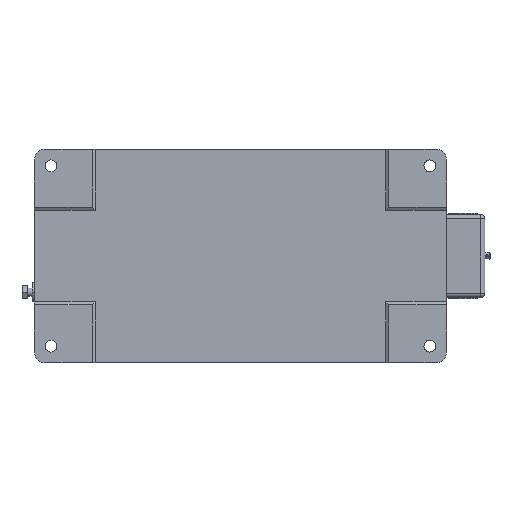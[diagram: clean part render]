
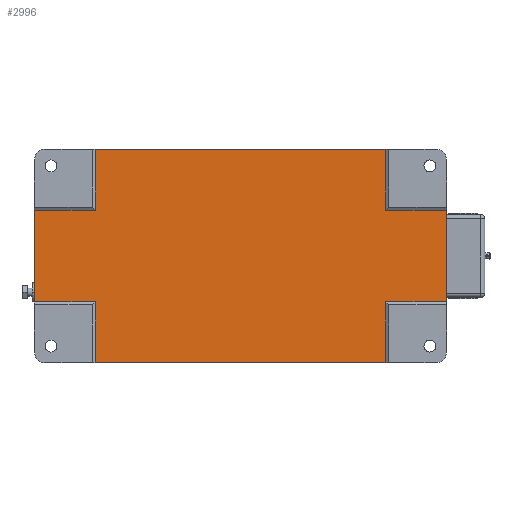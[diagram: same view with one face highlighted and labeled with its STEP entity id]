
A CAD part, front view. The second image highlights one B-rep face of the part: STEP entity #2996.
In plain terms, the highlighted planar face has unit normal (0, -1, 0).
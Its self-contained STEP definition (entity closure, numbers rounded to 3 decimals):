
#44 = ORIENTED_EDGE ( 'NONE', *, *, #7060, .T. ) ;
#123 = EDGE_LOOP ( 'NONE', ( #1683, #4411, #127, #2958, #8698, #1298, #7544, #4750, #6911, #6355, #44, #3454 ) ) ;
#127 = ORIENTED_EDGE ( 'NONE', *, *, #384, .T. ) ;
#230 = CARTESIAN_POINT ( 'NONE',  ( 91.144, 2., 44.144 ) ) ;
#379 = DIRECTION ( 'NONE',  ( -1., 0., 0. ) ) ;
#383 = VECTOR ( 'NONE', #4476, 1000. ) ;
#384 = EDGE_CURVE ( 'NONE', #9167, #4955, #8235, .T. ) ;
#395 = LINE ( 'NONE', #8175, #3208 ) ;
#504 = AXIS2_PLACEMENT_3D ( 'NONE', #4843, #6934, #2370 ) ;
#640 = DIRECTION ( 'NONE',  ( 0., 0., 1. ) ) ;
#770 = VERTEX_POINT ( 'NONE', #6367 ) ;
#818 = CARTESIAN_POINT ( 'NONE',  ( -189.144, 2., -103. ) ) ;
#902 = VECTOR ( 'NONE', #8791, 1000. ) ;
#945 = CARTESIAN_POINT ( 'NONE',  ( 150., 2., 44.144 ) ) ;
#1032 = VERTEX_POINT ( 'NONE', #4798 ) ;
#1247 = DIRECTION ( 'NONE',  ( -1., 0., 0. ) ) ;
#1298 = ORIENTED_EDGE ( 'NONE', *, *, #1728, .F. ) ;
#1394 = VERTEX_POINT ( 'NONE', #7528 ) ;
#1683 = ORIENTED_EDGE ( 'NONE', *, *, #9822, .F. ) ;
#1697 = FACE_OUTER_BOUND ( 'NONE', #123, .T. ) ;
#1728 = EDGE_CURVE ( 'NONE', #7877, #5378, #5861, .T. ) ;
#1970 = DIRECTION ( 'NONE',  ( 0., 0., 1. ) ) ;
#2095 = EDGE_CURVE ( 'NONE', #770, #5710, #8102, .T. ) ;
#2298 = VERTEX_POINT ( 'NONE', #945 ) ;
#2370 = DIRECTION ( 'NONE',  ( -1., 0., 0. ) ) ;
#2476 = VECTOR ( 'NONE', #1970, 1000. ) ;
#2603 = LINE ( 'NONE', #2710, #902 ) ;
#2710 = CARTESIAN_POINT ( 'NONE',  ( -248., 2., 44.144 ) ) ;
#2756 = DIRECTION ( 'NONE',  ( 0., 0., 1. ) ) ;
#2905 = VERTEX_POINT ( 'NONE', #230 ) ;
#2958 = ORIENTED_EDGE ( 'NONE', *, *, #9790, .F. ) ;
#2996 = ADVANCED_FACE ( 'NONE', ( #1697 ), #8553, .F. ) ;
#3208 = VECTOR ( 'NONE', #2756, 1000. ) ;
#3454 = ORIENTED_EDGE ( 'NONE', *, *, #6696, .T. ) ;
#3466 = LINE ( 'NONE', #9645, #6069 ) ;
#3501 = VECTOR ( 'NONE', #5822, 1000. ) ;
#4130 = EDGE_CURVE ( 'NONE', #7877, #9513, #6363, .T. ) ;
#4411 = ORIENTED_EDGE ( 'NONE', *, *, #6930, .T. ) ;
#4453 = CARTESIAN_POINT ( 'NONE',  ( -189.144, 2., -44.144 ) ) ;
#4476 = DIRECTION ( 'NONE',  ( 1., 0., 0. ) ) ;
#4554 = CARTESIAN_POINT ( 'NONE',  ( -248., 2., -44.144 ) ) ;
#4671 = VECTOR ( 'NONE', #4875, 1000. ) ;
#4750 = ORIENTED_EDGE ( 'NONE', *, *, #9932, .F. ) ;
#4798 = CARTESIAN_POINT ( 'NONE',  ( 91.144, 2., -44.144 ) ) ;
#4843 = CARTESIAN_POINT ( 'NONE',  ( -248., 2., 44.144 ) ) ;
#4875 = DIRECTION ( 'NONE',  ( 0., 0., 1. ) ) ;
#4955 = VERTEX_POINT ( 'NONE', #9054 ) ;
#4988 = CARTESIAN_POINT ( 'NONE',  ( -189.144, 2., -103. ) ) ;
#5019 = LINE ( 'NONE', #6570, #3501 ) ;
#5378 = VERTEX_POINT ( 'NONE', #7298 ) ;
#5399 = DIRECTION ( 'NONE',  ( 0., 0., 1. ) ) ;
#5471 = LINE ( 'NONE', #818, #4671 ) ;
#5710 = VERTEX_POINT ( 'NONE', #4988 ) ;
#5822 = DIRECTION ( 'NONE',  ( 0., 0., 1. ) ) ;
#5861 = LINE ( 'NONE', #7516, #2476 ) ;
#5955 = CARTESIAN_POINT ( 'NONE',  ( 91.144, 2., -103. ) ) ;
#6069 = VECTOR ( 'NONE', #7952, 1000. ) ;
#6355 = ORIENTED_EDGE ( 'NONE', *, *, #7804, .T. ) ;
#6363 = LINE ( 'NONE', #9654, #8317 ) ;
#6367 = CARTESIAN_POINT ( 'NONE',  ( 91.144, 2., -103. ) ) ;
#6504 = DIRECTION ( 'NONE',  ( 1., 0., 0. ) ) ;
#6570 = CARTESIAN_POINT ( 'NONE',  ( 91.144, 2., -103. ) ) ;
#6696 = EDGE_CURVE ( 'NONE', #9742, #2298, #7465, .T. ) ;
#6788 = LINE ( 'NONE', #9694, #383 ) ;
#6911 = ORIENTED_EDGE ( 'NONE', *, *, #2095, .F. ) ;
#6930 = EDGE_CURVE ( 'NONE', #2905, #9167, #7755, .T. ) ;
#6934 = DIRECTION ( 'NONE',  ( 0., 1., 0. ) ) ;
#7060 = EDGE_CURVE ( 'NONE', #1032, #9742, #3466, .T. ) ;
#7126 = EDGE_CURVE ( 'NONE', #5378, #1394, #6788, .T. ) ;
#7298 = CARTESIAN_POINT ( 'NONE',  ( -248., 2., 44.144 ) ) ;
#7465 = LINE ( 'NONE', #7609, #7720 ) ;
#7516 = CARTESIAN_POINT ( 'NONE',  ( -248., 2., 44.144 ) ) ;
#7528 = CARTESIAN_POINT ( 'NONE',  ( -189.144, 2., 44.144 ) ) ;
#7544 = ORIENTED_EDGE ( 'NONE', *, *, #4130, .T. ) ;
#7609 = CARTESIAN_POINT ( 'NONE',  ( 150., 2., 44.144 ) ) ;
#7720 = VECTOR ( 'NONE', #640, 1000. ) ;
#7755 = LINE ( 'NONE', #9232, #10009 ) ;
#7804 = EDGE_CURVE ( 'NONE', #770, #1032, #5019, .T. ) ;
#7877 = VERTEX_POINT ( 'NONE', #4554 ) ;
#7952 = DIRECTION ( 'NONE',  ( 1., 0., 0. ) ) ;
#8102 = LINE ( 'NONE', #5955, #9640 ) ;
#8175 = CARTESIAN_POINT ( 'NONE',  ( -189.144, 2., -103. ) ) ;
#8235 = LINE ( 'NONE', #8951, #9034 ) ;
#8317 = VECTOR ( 'NONE', #6504, 1000. ) ;
#8553 = PLANE ( 'NONE',  #504 ) ;
#8698 = ORIENTED_EDGE ( 'NONE', *, *, #7126, .F. ) ;
#8791 = DIRECTION ( 'NONE',  ( 1., 0., 0. ) ) ;
#8951 = CARTESIAN_POINT ( 'NONE',  ( 91.144, 2., 103. ) ) ;
#9034 = VECTOR ( 'NONE', #1247, 1000. ) ;
#9054 = CARTESIAN_POINT ( 'NONE',  ( -189.144, 2., 103. ) ) ;
#9167 = VERTEX_POINT ( 'NONE', #9345 ) ;
#9232 = CARTESIAN_POINT ( 'NONE',  ( 91.144, 2., -103. ) ) ;
#9345 = CARTESIAN_POINT ( 'NONE',  ( 91.144, 2., 103. ) ) ;
#9407 = CARTESIAN_POINT ( 'NONE',  ( 150., 2., -44.144 ) ) ;
#9513 = VERTEX_POINT ( 'NONE', #4453 ) ;
#9640 = VECTOR ( 'NONE', #379, 1000. ) ;
#9645 = CARTESIAN_POINT ( 'NONE',  ( -248., 2., -44.144 ) ) ;
#9654 = CARTESIAN_POINT ( 'NONE',  ( -248., 2., -44.144 ) ) ;
#9694 = CARTESIAN_POINT ( 'NONE',  ( -248., 2., 44.144 ) ) ;
#9742 = VERTEX_POINT ( 'NONE', #9407 ) ;
#9790 = EDGE_CURVE ( 'NONE', #1394, #4955, #5471, .T. ) ;
#9822 = EDGE_CURVE ( 'NONE', #2905, #2298, #2603, .T. ) ;
#9932 = EDGE_CURVE ( 'NONE', #5710, #9513, #395, .T. ) ;
#10009 = VECTOR ( 'NONE', #5399, 1000. ) ;
